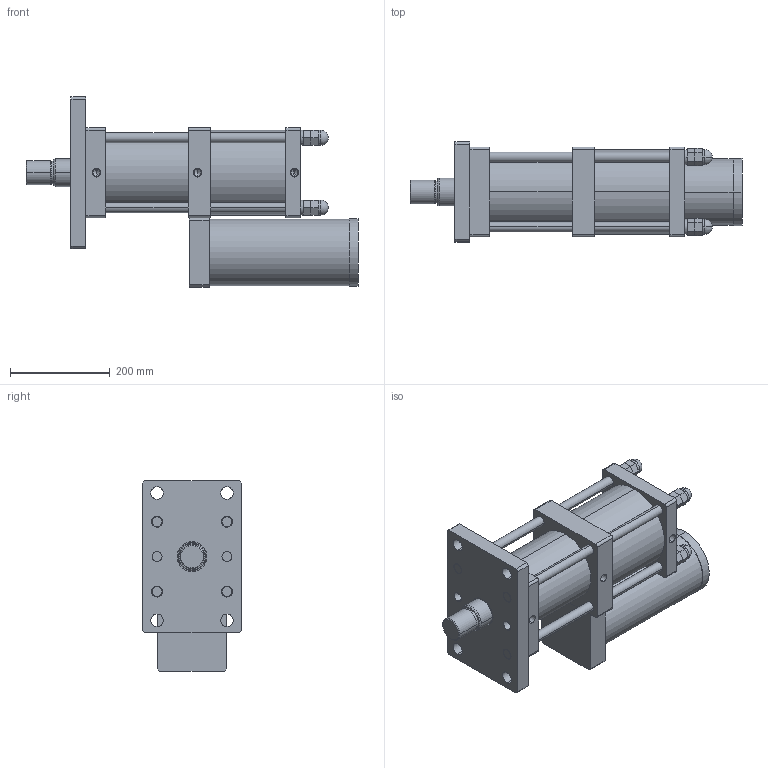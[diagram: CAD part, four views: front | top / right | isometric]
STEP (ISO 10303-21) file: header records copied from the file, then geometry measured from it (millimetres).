
FILE_DESCRIPTION (( 'STEP AP203' ), '1' );
FILE_NAME ('CPT-125-100-5-20T.STEP', '2016-03-12T01:52:42', ( 'WIN' ), ( '' ), 'SwSTEP 2.0', 'SolidWorks 2014', '' );
FILE_SCHEMA (( 'CONFIG_CONTROL_DESIGN' ));
Length unit declared in the file: millimetre
Products named in the file (1): CPT-125-100-5-20T
Bounding box: 665.5 x 200 x 382.5 mm (x, y, z)
Volume: 13718531.4 mm3; surface area: 1116829.5 mm2
Topology: 17 solids, 17 shells, 320 faces, 732 edges, 458 vertices
Faces by surface type: plane 154, cylinder 124, cone 30, sphere 8, torus 4
Entity records: 8963 total; most frequent: DIRECTION 1652, CARTESIAN_POINT 1479, ORIENTED_EDGE 1416, EDGE_CURVE 708, AXIS2_PLACEMENT_3D 623, VERTEX_POINT 450, LINE 406, VECTOR 406
